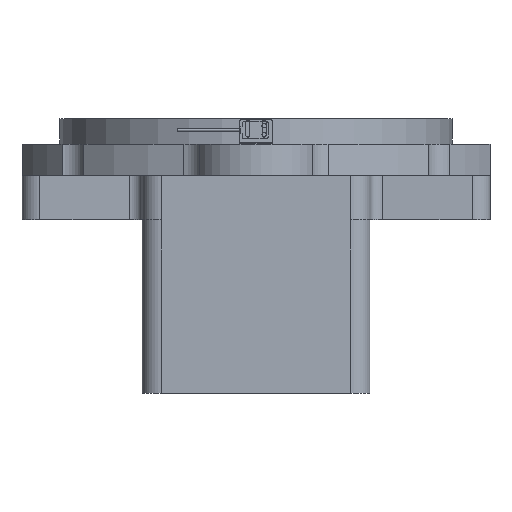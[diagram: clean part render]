
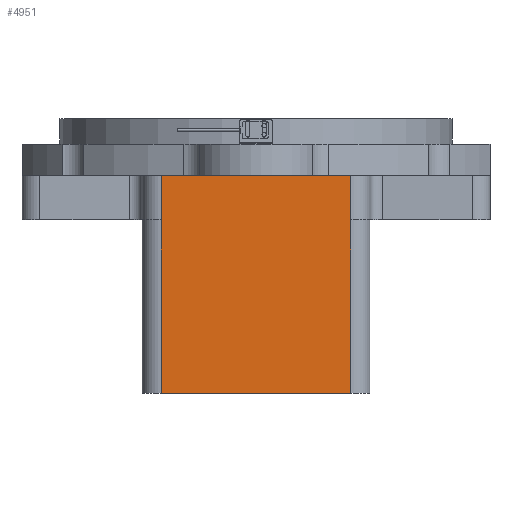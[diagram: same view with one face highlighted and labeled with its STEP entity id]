
A CAD part, front view. The second image highlights one B-rep face of the part: STEP entity #4951.
In plain terms, the highlighted planar face has unit normal (0, -1, 0).
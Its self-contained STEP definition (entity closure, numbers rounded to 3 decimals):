
#1306 = VECTOR ( 'NONE', #16155, 1000. ) ;
#1951 = DIRECTION ( 'NONE',  ( 0., 0., -1. ) ) ;
#3003 = ORIENTED_EDGE ( 'NONE', *, *, #12407, .T. ) ;
#3852 = FACE_OUTER_BOUND ( 'NONE', #5847, .T. ) ;
#3947 = ORIENTED_EDGE ( 'NONE', *, *, #6901, .T. ) ;
#4730 = LINE ( 'NONE', #13696, #17268 ) ;
#4922 = ORIENTED_EDGE ( 'NONE', *, *, #25781, .F. ) ;
#4951 = ADVANCED_FACE ( 'NONE', ( #3852 ), #10034, .F. ) ;
#5847 = EDGE_LOOP ( 'NONE', ( #7227, #3003, #4922, #10591, #3947, #23735 ) ) ;
#6826 = EDGE_CURVE ( 'NONE', #8804, #24677, #13263, .T. ) ;
#6901 = EDGE_CURVE ( 'NONE', #22638, #24677, #4730, .T. ) ;
#7227 = ORIENTED_EDGE ( 'NONE', *, *, #16262, .T. ) ;
#7484 = AXIS2_PLACEMENT_3D ( 'NONE', #22115, #17526, #15718 ) ;
#7491 = CARTESIAN_POINT ( 'NONE',  ( 69.297, -229.875, -108.5 ) ) ;
#7647 = CARTESIAN_POINT ( 'NONE',  ( -95.703, -229.875, 108.5 ) ) ;
#7701 = CARTESIAN_POINT ( 'NONE',  ( 54.297, -229.875, 28.5 ) ) ;
#7759 = VECTOR ( 'NONE', #19466, 1000. ) ;
#8433 = LINE ( 'NONE', #11052, #8591 ) ;
#8591 = VECTOR ( 'NONE', #1951, 1000. ) ;
#8804 = VERTEX_POINT ( 'NONE', #9186 ) ;
#9186 = CARTESIAN_POINT ( 'NONE',  ( -95.703, -229.875, 63.5 ) ) ;
#9705 = VERTEX_POINT ( 'NONE', #16797 ) ;
#9812 = EDGE_CURVE ( 'NONE', #26680, #22638, #16957, .T. ) ;
#10034 = PLANE ( 'NONE',  #7484 ) ;
#10591 = ORIENTED_EDGE ( 'NONE', *, *, #9812, .T. ) ;
#10652 = VECTOR ( 'NONE', #24643, 1000. ) ;
#11052 = CARTESIAN_POINT ( 'NONE',  ( -95.703, -229.875, 108.5 ) ) ;
#11750 = LINE ( 'NONE', #7647, #27350 ) ;
#12407 = EDGE_CURVE ( 'NONE', #26472, #9705, #11750, .T. ) ;
#13263 = LINE ( 'NONE', #26972, #10652 ) ;
#13696 = CARTESIAN_POINT ( 'NONE',  ( 54.297, -229.875, 63.5 ) ) ;
#15079 = CARTESIAN_POINT ( 'NONE',  ( -95.703, -229.875, 28.5 ) ) ;
#15718 = DIRECTION ( 'NONE',  ( 1., 0., 0. ) ) ;
#15865 = CARTESIAN_POINT ( 'NONE',  ( 54.297, -229.875, 28.5 ) ) ;
#16155 = DIRECTION ( 'NONE',  ( -1., 0., 0. ) ) ;
#16262 = EDGE_CURVE ( 'NONE', #8804, #26472, #8433, .T. ) ;
#16797 = CARTESIAN_POINT ( 'NONE',  ( -95.703, -229.875, -108.5 ) ) ;
#16957 = LINE ( 'NONE', #7701, #7759 ) ;
#17261 = CARTESIAN_POINT ( 'NONE',  ( 54.297, -229.875, -108.5 ) ) ;
#17268 = VECTOR ( 'NONE', #18432, 1000. ) ;
#17526 = DIRECTION ( 'NONE',  ( 0., 1., 0. ) ) ;
#18432 = DIRECTION ( 'NONE',  ( 0., 0., 1. ) ) ;
#19466 = DIRECTION ( 'NONE',  ( 0., 0., 1. ) ) ;
#20947 = CARTESIAN_POINT ( 'NONE',  ( 54.297, -229.875, 63.5 ) ) ;
#22115 = CARTESIAN_POINT ( 'NONE',  ( -20.703, -229.875, 108.5 ) ) ;
#22638 = VERTEX_POINT ( 'NONE', #15865 ) ;
#22809 = DIRECTION ( 'NONE',  ( 0., 0., -1. ) ) ;
#23735 = ORIENTED_EDGE ( 'NONE', *, *, #6826, .F. ) ;
#24643 = DIRECTION ( 'NONE',  ( 1., 0., 0. ) ) ;
#24677 = VERTEX_POINT ( 'NONE', #20947 ) ;
#25781 = EDGE_CURVE ( 'NONE', #26680, #9705, #27500, .T. ) ;
#26472 = VERTEX_POINT ( 'NONE', #15079 ) ;
#26680 = VERTEX_POINT ( 'NONE', #17261 ) ;
#26972 = CARTESIAN_POINT ( 'NONE',  ( -20.703, -229.875, 63.5 ) ) ;
#27350 = VECTOR ( 'NONE', #22809, 1000. ) ;
#27500 = LINE ( 'NONE', #7491, #1306 ) ;
